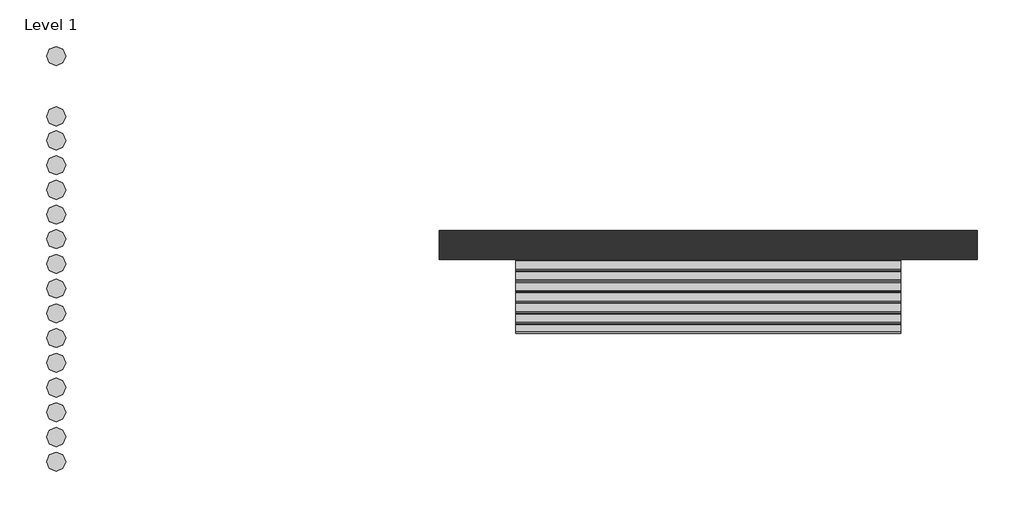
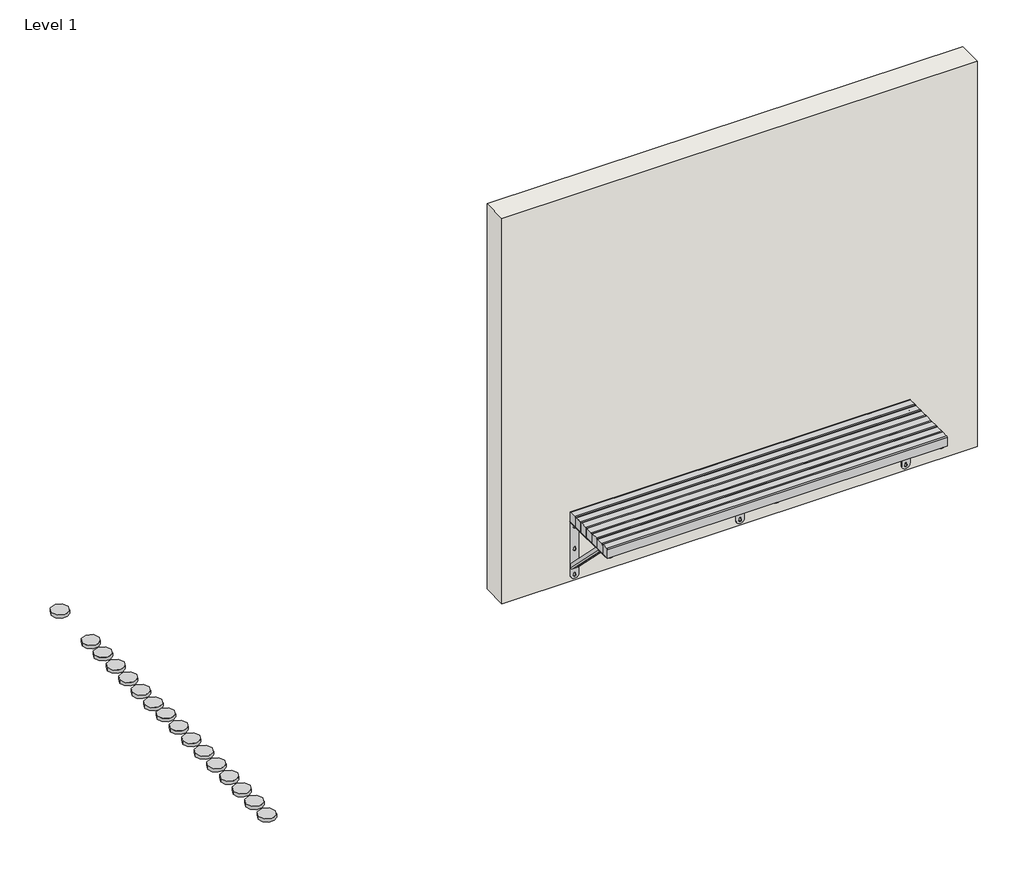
# One storey: 16 proxies, 1 furniture element, 1 wall.
"""IFC4 building model written with IfcOpenShell, lengths in millimetres."""

from ifc_helpers import new_model, si_unit, origin, origin_with_axes, place, context, project, spatial, polyline, outline, extrude, transform, mapped, element, save
from components import materialmodel_materialmodel_58669afb, type_1_918a97a2, type_1_ca73483d

model = new_model("IFC4")

# Units and contexts
model_context = context("Model", 3, world=origin())
ifc_project = project(units=[si_unit("LENGTHUNIT", "METRE", prefix="MILLI")], contexts=[model_context])

# Site, building, storey
site = spatial("IfcSite", under=ifc_project)
building = spatial("IfcBuilding", under=site)
storey = spatial("IfcBuildingStorey", under=building, Name="Level 1", Elevation=0.0)

# Proxies
placement = place(None, origin())
materialmodel_materialmodel_shape = materialmodel_materialmodel_58669afb(model_context)
element("IfcBuildingElementProxy", 1, Name="MaterialModel : MaterialModel", ObjectType="MaterialModel : MaterialModel", at=placement, inside=storey, context=model_context, shape_type="MappedRepresentation", body=[
    mapped(materialmodel_materialmodel_shape, transform((-10268.5516042, 2363.9940206, 0.0), x_axis=(1.0, 0.0, 0.0), y_axis=(0.0, 1.0, 0.0), z_axis=(0.0, 0.0, 1.0))),
])
element("IfcBuildingElementProxy", 2, Name="MaterialModel : MaterialModel", ObjectType="MaterialModel : MaterialModel", at=placement, inside=storey, context=model_context, shape_type="MappedRepresentation", body=[
    mapped(materialmodel_materialmodel_shape, transform((-10268.5516042, 2239.1712203, 0.0), x_axis=(1.0, 0.0, 0.0), y_axis=(0.0, 1.0, 0.0), z_axis=(0.0, 0.0, 1.0))),
])
element("IfcBuildingElementProxy", 3, Name="MaterialModel : MaterialModel", ObjectType="MaterialModel : MaterialModel", at=placement, inside=storey, context=model_context, shape_type="MappedRepresentation", body=[
    mapped(materialmodel_materialmodel_shape, transform((-10268.5516042, 2110.436676, 0.0), x_axis=(1.0, 0.0, 0.0), y_axis=(0.0, 1.0, 0.0), z_axis=(0.0, 0.0, 1.0))),
])
element("IfcBuildingElementProxy", 4, Name="MaterialModel : MaterialModel", ObjectType="MaterialModel : MaterialModel", at=placement, inside=storey, context=model_context, shape_type="MappedRepresentation", body=[
    mapped(materialmodel_materialmodel_shape, transform((-10268.5516042, 1981.7021316, 0.0), x_axis=(1.0, 0.0, 0.0), y_axis=(0.0, 1.0, 0.0), z_axis=(0.0, 0.0, 1.0))),
])
element("IfcBuildingElementProxy", 5, Name="MaterialModel : MaterialModel", ObjectType="MaterialModel : MaterialModel", at=placement, inside=storey, context=model_context, shape_type="MappedRepresentation", body=[
    mapped(materialmodel_materialmodel_shape, transform((-10268.5516042, 1852.9675873, 0.0), x_axis=(1.0, 0.0, 0.0), y_axis=(0.0, 1.0, 0.0), z_axis=(0.0, 0.0, 1.0))),
])
element("IfcBuildingElementProxy", 6, Name="MaterialModel : MaterialModel", ObjectType="MaterialModel : MaterialModel", at=placement, inside=storey, context=model_context, shape_type="MappedRepresentation", body=[
    mapped(materialmodel_materialmodel_shape, transform((-10268.5516042, 1725.2876659, 0.0), x_axis=(1.0, 0.0, 0.0), y_axis=(0.0, 1.0, 0.0), z_axis=(0.0, 0.0, 1.0))),
])
element("IfcBuildingElementProxy", 7, Name="MaterialModel : MaterialModel", ObjectType="MaterialModel : MaterialModel", at=placement, inside=storey, context=model_context, shape_type="MappedRepresentation", body=[
    mapped(materialmodel_materialmodel_shape, transform((-10268.5516042, 1596.5531216, 10.0), x_axis=(1.0, 0.0, 0.0), y_axis=(0.0, 1.0, 0.0), z_axis=(0.0, 0.0, 1.0))),
])
element("IfcBuildingElementProxy", 8, Name="MaterialModel : MaterialModel", ObjectType="MaterialModel : MaterialModel", at=placement, inside=storey, context=model_context, shape_type="MappedRepresentation", body=[
    mapped(materialmodel_materialmodel_shape, transform((-10268.5516042, 1467.8185772, 10.0), x_axis=(1.0, 0.0, 0.0), y_axis=(0.0, 1.0, 0.0), z_axis=(0.0, 0.0, 1.0))),
])
element("IfcBuildingElementProxy", 9, Name="MaterialModel : MaterialModel", ObjectType="MaterialModel : MaterialModel", at=placement, inside=storey, context=model_context, shape_type="MappedRepresentation", body=[
    mapped(materialmodel_materialmodel_shape, transform((-10268.5516042, 1339.0840329, 10.0), x_axis=(1.0, 0.0, 0.0), y_axis=(0.0, 1.0, 0.0), z_axis=(0.0, 0.0, 1.0))),
])
element("IfcBuildingElementProxy", 10, Name="MaterialModel : MaterialModel", ObjectType="MaterialModel : MaterialModel", at=placement, inside=storey, context=model_context, shape_type="MappedRepresentation", body=[
    mapped(materialmodel_materialmodel_shape, transform((-10268.5516042, 1210.3494885, 10.0), x_axis=(1.0, 0.0, 0.0), y_axis=(0.0, 1.0, 0.0), z_axis=(0.0, 0.0, 1.0))),
])
element("IfcBuildingElementProxy", 11, Name="MaterialModel : MaterialModel", ObjectType="MaterialModel : MaterialModel", at=placement, inside=storey, context=model_context, shape_type="MappedRepresentation", body=[
    mapped(materialmodel_materialmodel_shape, transform((-10268.5516042, 1081.6149442, 10.0), x_axis=(1.0, 0.0, 0.0), y_axis=(0.0, 1.0, 0.0), z_axis=(0.0, 0.0, 1.0))),
])
element("IfcBuildingElementProxy", 12, Name="MaterialModel : MaterialModel", ObjectType="MaterialModel : MaterialModel", at=placement, inside=storey, context=model_context, shape_type="MappedRepresentation", body=[
    mapped(materialmodel_materialmodel_shape, transform((-10268.5516042, 952.8803998, 10.0), x_axis=(1.0, 0.0, 0.0), y_axis=(0.0, 1.0, 0.0), z_axis=(0.0, 0.0, 1.0))),
])
element("IfcBuildingElementProxy", 13, Name="MaterialModel : MaterialModel", ObjectType="MaterialModel : MaterialModel", at=placement, inside=storey, context=model_context, shape_type="MappedRepresentation", body=[
    mapped(materialmodel_materialmodel_shape, transform((-10268.5516042, 824.1458555, 10.0), x_axis=(1.0, 0.0, 0.0), y_axis=(0.0, 1.0, 0.0), z_axis=(0.0, 0.0, 1.0))),
])
element("IfcBuildingElementProxy", 14, Name="MaterialModel : MaterialModel", ObjectType="MaterialModel : MaterialModel", at=placement, inside=storey, context=model_context, shape_type="MappedRepresentation", body=[
    mapped(materialmodel_materialmodel_shape, transform((-10268.5516042, 695.4113111, 10.0), x_axis=(1.0, 0.0, 0.0), y_axis=(0.0, 1.0, 0.0), z_axis=(0.0, 0.0, 1.0))),
])
element("IfcBuildingElementProxy", 15, Name="MaterialModel : MaterialModel", ObjectType="MaterialModel : MaterialModel", at=placement, inside=storey, context=model_context, shape_type="MappedRepresentation", body=[
    mapped(materialmodel_materialmodel_shape, transform((-10268.5516042, 566.6767668, 10.0), x_axis=(1.0, 0.0, 0.0), y_axis=(0.0, 1.0, 0.0), z_axis=(0.0, 0.0, 1.0))),
])
element("IfcBuildingElementProxy", 16, Name="MaterialModel : MaterialModel", ObjectType="MaterialModel : MaterialModel", at=placement, inside=storey, context=model_context, shape_type="MappedRepresentation", body=[
    mapped(materialmodel_materialmodel_shape, transform((-10268.5516042, 2678.0371084, 0.0), x_axis=(1.0, 0.0, 0.0), y_axis=(0.0, 1.0, 0.0), z_axis=(0.0, 0.0, 1.0))),
])

# Furniture
type_1_shape = type_1_918a97a2(model_context)
type_1_2_shape = type_1_ca73483d(model_context)
element("IfcFurniture", 17, ObjectType="Roros Produkter - Nobel - Bench - Wall - 32650 : Type 1", at=placement, inside=storey, context=model_context, shape_type="MappedRepresentation", body=[
    mapped(type_1_shape, transform((-6752.4066251, 1693.9342859, 0.0), x_axis=(-1.0, 0.0, 0.0), y_axis=(0.0, -1.0, 0.0), z_axis=(0.0, 0.0, 1.0))),
    mapped(type_1_2_shape, transform((-6752.4066251, 1693.9342859, 0.0), x_axis=(-1.0, 0.0, 0.0), y_axis=(0.0, -1.0, 0.0), z_axis=(0.0, 0.0, 1.0))),
])

# Wall
element("IfcWall", 18, ObjectType="Preview Wall", at=placement, inside=storey, context=model_context, shape_type="SweptSolid", body=[
    extrude(outline(polyline([(-5477.4066326, 1617.9342859), (-8277.4066326, 1617.9342859), (-8277.4066326, 1769.9342859), (-5477.4066326, 1769.9342859), (-5477.4066326, 1617.9342859)])), origin_with_axes(), (0.0, 0.0, 1.0), 2400.0),
])

save(model, "model.ifc")
